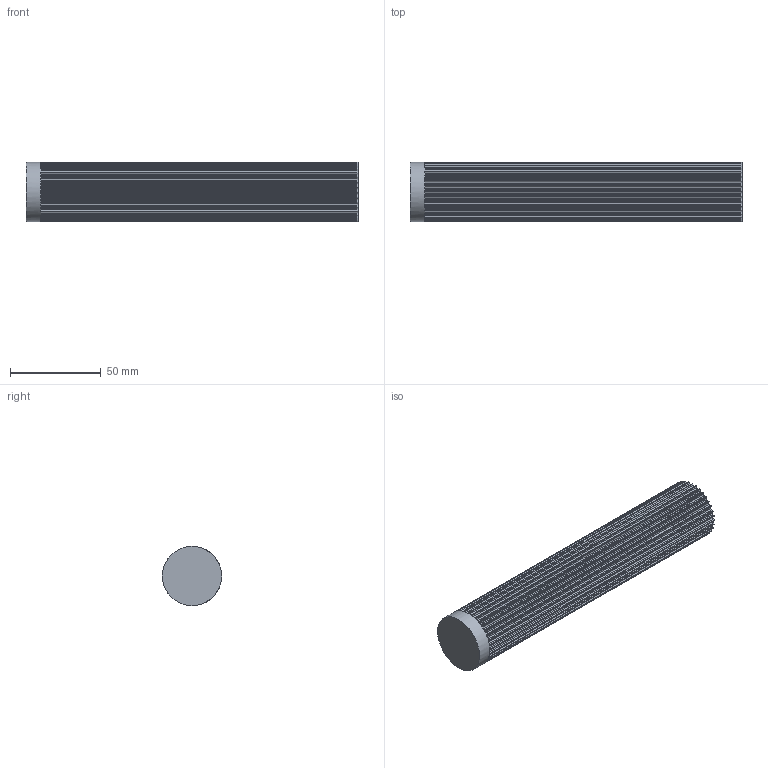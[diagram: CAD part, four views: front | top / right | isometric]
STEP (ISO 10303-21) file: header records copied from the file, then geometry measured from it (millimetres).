
FILE_DESCRIPTION( ( 'STEP AP214' ), '1' );
FILE_NAME( 'C:/Users/StangenbergN/Desktop/Steps Zahnriemenräder/K166_HTD-Zahnwellen/17093500.stp', '2019-06-06T09:34:55', ( '' ), ( '' ), ' ', 'PARTsolutions', ' ' );
FILE_SCHEMA( ( 'AUTOMOTIVE_DESIGN { 1 0 10303 214 1 1 1 1 }' ) );
Length unit declared in the file: millimetre
Products named in the file (1): _17093500
Bounding box: 183 x 32.66 x 32.66 mm (x, y, z)
Volume: 140274.7 mm3; surface area: 26987.2 mm2
Topology: 1 solids, 1 shells, 283 faces, 843 edges, 562 vertices
Faces by surface type: plane 142, cylinder 141
Full cylindrical faces by diameter (mm): 32.66 x1
Entity records: 11914 total; most frequent: DIRECTION 1760, CARTESIAN_POINT 1686, ORIENTED_EDGE 1682, EDGE_CURVE 841, AXIS2_PLACEMENT_3D 635, VERTEX_POINT 561, LINE 490, VECTOR 490
